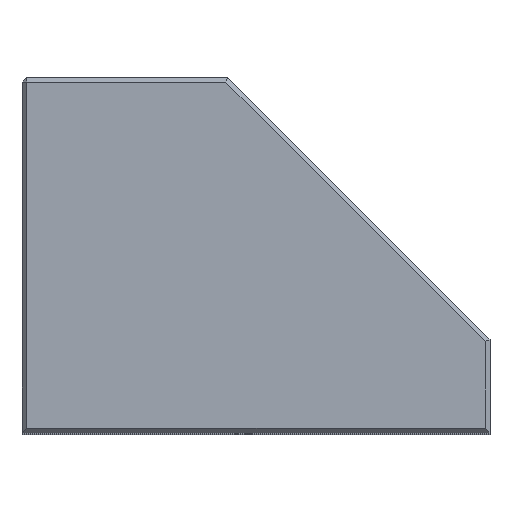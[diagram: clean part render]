
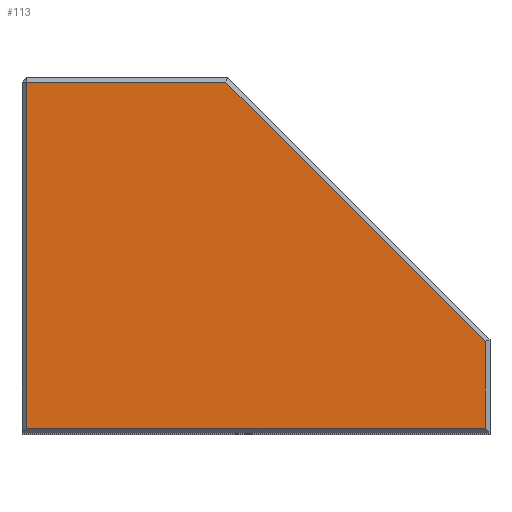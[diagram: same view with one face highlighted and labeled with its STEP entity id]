
A CAD part, top view. The second image highlights one B-rep face of the part: STEP entity #113.
In plain terms, the highlighted planar face has unit normal (0, 0, 1).
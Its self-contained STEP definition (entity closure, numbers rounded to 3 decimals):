
#91 = ORIENTED_EDGE ( 'NONE', *, *, #92, .T. ) ;
#92 = EDGE_CURVE ( 'NONE', #118, #119, #726, .T. ) ;
#93 = ORIENTED_EDGE ( 'NONE', *, *, #94, .T. ) ;
#94 = EDGE_CURVE ( 'NONE', #119, #95, #722, .T. ) ;
#95 = VERTEX_POINT ( 'NONE', #718 ) ;
#96 = ORIENTED_EDGE ( 'NONE', *, *, #97, .T. ) ;
#97 = EDGE_CURVE ( 'NONE', #95, #98, #717, .T. ) ;
#98 = VERTEX_POINT ( 'NONE', #713 ) ;
#99 = ORIENTED_EDGE ( 'NONE', *, *, #100, .T. ) ;
#100 = EDGE_CURVE ( 'NONE', #98, #117, #712, .T. ) ;
#113 = ADVANCED_FACE ( 'NONE', ( #685 ), #684, .F. ) ;
#114 = EDGE_LOOP ( 'NONE', ( #115, #91, #93, #96, #99 ) ) ;
#115 = ORIENTED_EDGE ( 'NONE', *, *, #116, .T. ) ;
#116 = EDGE_CURVE ( 'NONE', #117, #118, #679, .T. ) ;
#117 = VERTEX_POINT ( 'NONE', #673 ) ;
#118 = VERTEX_POINT ( 'NONE', #675 ) ;
#119 = VERTEX_POINT ( 'NONE', #674 ) ;
#673 = CARTESIAN_POINT ( 'NONE',  ( 21.793, 37.5, 44. ) ) ;
#674 = CARTESIAN_POINT ( 'NONE',  ( 0.5, 0.5, 44. ) ) ;
#675 = CARTESIAN_POINT ( 'NONE',  ( 0.5, 37.5, 44. ) ) ;
#676 = DIRECTION ( 'NONE',  ( -1., 0., 0. ) ) ;
#677 = VECTOR ( 'NONE', #676, 1000. ) ;
#678 = CARTESIAN_POINT ( 'NONE',  ( 0., 37.5, 44. ) ) ;
#679 = LINE ( 'NONE', #678, #677 ) ;
#680 = DIRECTION ( 'NONE',  ( -1., 0., 0. ) ) ;
#681 = DIRECTION ( 'NONE',  ( 0., 0., -1. ) ) ;
#682 = CARTESIAN_POINT ( 'NONE',  ( 0., 0., 44. ) ) ;
#683 = AXIS2_PLACEMENT_3D ( 'NONE', #682, #681, #680 ) ;
#684 = PLANE ( 'NONE',  #683 ) ;
#685 = FACE_OUTER_BOUND ( 'NONE', #114, .T. ) ;
#709 = DIRECTION ( 'NONE',  ( -0.707, 0.707, 0. ) ) ;
#710 = VECTOR ( 'NONE', #709, 1000. ) ;
#711 = CARTESIAN_POINT ( 'NONE',  ( 29.646, 29.646, 44. ) ) ;
#712 = LINE ( 'NONE', #711, #710 ) ;
#713 = CARTESIAN_POINT ( 'NONE',  ( 49.5, 9.793, 44. ) ) ;
#714 = DIRECTION ( 'NONE',  ( 0., 1., 0. ) ) ;
#715 = VECTOR ( 'NONE', #714, 1000. ) ;
#716 = CARTESIAN_POINT ( 'NONE',  ( 49.5, 0., 44. ) ) ;
#717 = LINE ( 'NONE', #716, #715 ) ;
#718 = CARTESIAN_POINT ( 'NONE',  ( 49.5, 0.5, 44. ) ) ;
#719 = DIRECTION ( 'NONE',  ( 1., 0., 0. ) ) ;
#720 = VECTOR ( 'NONE', #719, 1000. ) ;
#721 = CARTESIAN_POINT ( 'NONE',  ( 0., 0.5, 44. ) ) ;
#722 = LINE ( 'NONE', #721, #720 ) ;
#723 = DIRECTION ( 'NONE',  ( 0., -1., 0. ) ) ;
#724 = VECTOR ( 'NONE', #723, 1000. ) ;
#725 = CARTESIAN_POINT ( 'NONE',  ( 0.5, 0., 44. ) ) ;
#726 = LINE ( 'NONE', #725, #724 ) ;
